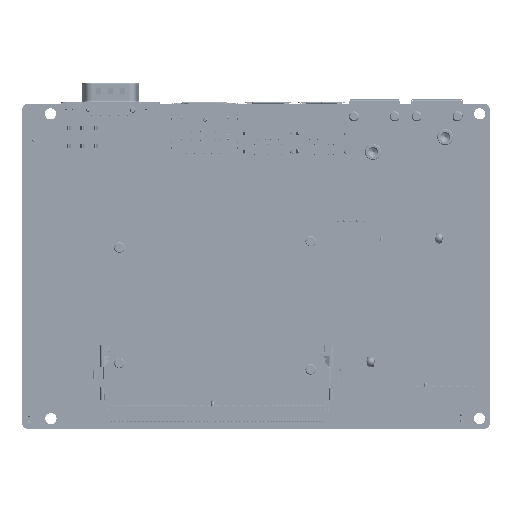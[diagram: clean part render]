
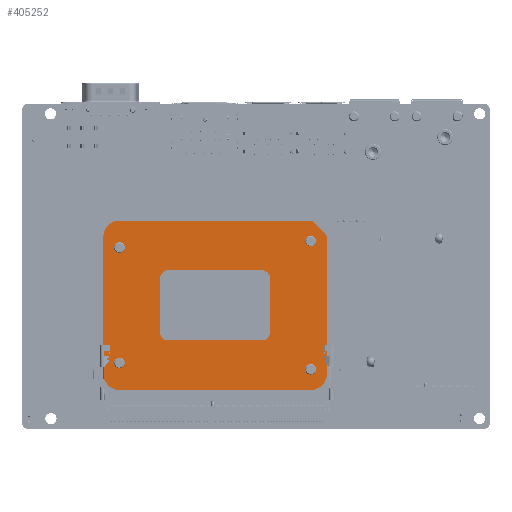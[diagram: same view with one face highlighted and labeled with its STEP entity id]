
A CAD part, front view. The second image highlights one B-rep face of the part: STEP entity #405252.
In plain terms, the highlighted planar face has unit normal (0, -1, 0).
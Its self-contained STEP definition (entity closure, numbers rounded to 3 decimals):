
#404733=CARTESIAN_POINT('',(-32.65,-3.948,-21.039));
#404734=DIRECTION('',(0.,1.,0.));
#404735=DIRECTION('',(-0.707,0.,-0.707));
#404736=AXIS2_PLACEMENT_3D('',#404733,#404734,#404735);
#404738=CARTESIAN_POINT('',(-29.85,-3.948,21.45));
#404739=DIRECTION('',(0.,1.,0.));
#404740=DIRECTION('',(-1.,0.,0.));
#404741=AXIS2_PLACEMENT_3D('',#404738,#404739,#404740);
#404743=CARTESIAN_POINT('',(29.85,-3.948,21.45));
#404744=DIRECTION('',(0.,1.,0.));
#404745=DIRECTION('',(0.,0.,1.));
#404746=AXIS2_PLACEMENT_3D('',#404743,#404744,#404745);
#404748=CARTESIAN_POINT('',(29.85,-3.948,-21.45));
#404749=DIRECTION('',(0.,1.,0.));
#404750=DIRECTION('',(1.,0.,0.));
#404751=AXIS2_PLACEMENT_3D('',#404748,#404749,#404750);
#404753=CARTESIAN_POINT('',(-29.439,-3.948,-24.25));
#404754=DIRECTION('',(0.,1.,0.));
#404755=DIRECTION('',(0.,0.,-1.));
#404756=AXIS2_PLACEMENT_3D('',#404753,#404754,#404755);
#404758=DIRECTION('',(-0.707,0.,0.707));
#404759=VECTOR('',#404758,4.541);
#404760=CARTESIAN_POINT('',(-30.994,-3.948,-25.806));
#404761=LINE('',#404760,#404759);
#404762=CARTESIAN_POINT('',(29.85,-3.948,18.));
#404763=DIRECTION('',(0.,-1.,0.));
#404764=DIRECTION('',(-1.,0.,0.));
#404765=AXIS2_PLACEMENT_3D('',#404762,#404763,#404764);
#404767=CARTESIAN_POINT('',(29.85,-3.948,18.));
#404768=DIRECTION('',(0.,-1.,0.));
#404769=DIRECTION('',(1.,0.,0.));
#404770=AXIS2_PLACEMENT_3D('',#404767,#404768,#404769);
#404772=CARTESIAN_POINT('',(29.85,-3.948,-18.));
#404773=DIRECTION('',(0.,-1.,0.));
#404774=DIRECTION('',(-1.,0.,0.));
#404775=AXIS2_PLACEMENT_3D('',#404772,#404773,#404774);
#404777=CARTESIAN_POINT('',(29.85,-3.948,-18.));
#404778=DIRECTION('',(0.,-1.,0.));
#404779=DIRECTION('',(1.,0.,0.));
#404780=AXIS2_PLACEMENT_3D('',#404777,#404778,#404779);
#404782=CARTESIAN_POINT('',(-29.85,-3.948,-20.));
#404783=DIRECTION('',(0.,-1.,0.));
#404784=DIRECTION('',(-1.,0.,0.));
#404785=AXIS2_PLACEMENT_3D('',#404782,#404783,#404784);
#404787=CARTESIAN_POINT('',(-29.85,-3.948,-20.));
#404788=DIRECTION('',(0.,-1.,0.));
#404789=DIRECTION('',(1.,0.,0.));
#404790=AXIS2_PLACEMENT_3D('',#404787,#404788,#404789);
#404792=CARTESIAN_POINT('',(14.65,-3.948,-8.45));
#404793=DIRECTION('',(0.,-1.,0.));
#404794=DIRECTION('',(0.,0.,-1.));
#404795=AXIS2_PLACEMENT_3D('',#404792,#404793,#404794);
#404797=CARTESIAN_POINT('',(14.65,-3.948,8.45));
#404798=DIRECTION('',(0.,-1.,0.));
#404799=DIRECTION('',(1.,0.,0.));
#404800=AXIS2_PLACEMENT_3D('',#404797,#404798,#404799);
#404802=CARTESIAN_POINT('',(-14.65,-3.948,8.45));
#404803=DIRECTION('',(0.,-1.,0.));
#404804=DIRECTION('',(0.,0.,1.));
#404805=AXIS2_PLACEMENT_3D('',#404802,#404803,#404804);
#404807=CARTESIAN_POINT('',(-14.65,-3.948,-8.45));
#404808=DIRECTION('',(0.,-1.,0.));
#404809=DIRECTION('',(-1.,0.,0.));
#404810=AXIS2_PLACEMENT_3D('',#404807,#404808,#404809);
#404812=CARTESIAN_POINT('',(-29.85,-3.948,20.));
#404813=DIRECTION('',(0.,-1.,0.));
#404814=DIRECTION('',(-1.,0.,0.));
#404815=AXIS2_PLACEMENT_3D('',#404812,#404813,#404814);
#404817=CARTESIAN_POINT('',(-29.85,-3.948,20.));
#404818=DIRECTION('',(0.,-1.,0.));
#404819=DIRECTION('',(1.,0.,0.));
#404820=AXIS2_PLACEMENT_3D('',#404817,#404818,#404819);
#404838=DIRECTION('',(1.,0.,0.));
#404839=VECTOR('',#404838,59.289);
#404840=CARTESIAN_POINT('',(-29.439,-3.948,-26.45));
#404841=LINE('',#404840,#404839);
#404850=DIRECTION('',(0.,0.,1.));
#404851=VECTOR('',#404850,42.9);
#404852=CARTESIAN_POINT('',(34.85,-3.948,-21.45));
#404853=LINE('',#404852,#404851);
#404862=DIRECTION('',(-1.,0.,0.));
#404863=VECTOR('',#404862,59.7);
#404864=CARTESIAN_POINT('',(29.85,-3.948,26.45));
#404865=LINE('',#404864,#404863);
#404874=DIRECTION('',(0.,0.,-1.));
#404875=VECTOR('',#404874,42.489);
#404876=CARTESIAN_POINT('',(-34.85,-3.948,21.45));
#404877=LINE('',#404876,#404875);
#405023=DIRECTION('',(0.,0.,-1.));
#405024=VECTOR('',#405023,16.9);
#405025=CARTESIAN_POINT('',(17.15,-3.948,8.45));
#405026=LINE('',#405025,#405024);
#405035=DIRECTION('',(1.,0.,0.));
#405036=VECTOR('',#405035,29.3);
#405037=CARTESIAN_POINT('',(-14.65,-3.948,10.95));
#405038=LINE('',#405037,#405036);
#405047=DIRECTION('',(0.,0.,1.));
#405048=VECTOR('',#405047,16.9);
#405049=CARTESIAN_POINT('',(-17.15,-3.948,-8.45));
#405050=LINE('',#405049,#405048);
#405059=DIRECTION('',(-1.,0.,0.));
#405060=VECTOR('',#405059,29.3);
#405061=CARTESIAN_POINT('',(14.65,-3.948,-10.95));
#405062=LINE('',#405061,#405060);
#405079=CARTESIAN_POINT('',(-34.206,-3.948,-22.594));
#405080=CARTESIAN_POINT('',(-34.85,-3.948,-21.039));
#405081=VERTEX_POINT('',#405079);
#405082=VERTEX_POINT('',#405080);
#405083=CARTESIAN_POINT('',(-34.85,-3.948,21.45));
#405084=VERTEX_POINT('',#405083);
#405085=CARTESIAN_POINT('',(-29.85,-3.948,26.45));
#405086=VERTEX_POINT('',#405085);
#405087=CARTESIAN_POINT('',(29.85,-3.948,26.45));
#405088=VERTEX_POINT('',#405087);
#405089=CARTESIAN_POINT('',(34.85,-3.948,21.45));
#405090=VERTEX_POINT('',#405089);
#405091=CARTESIAN_POINT('',(34.85,-3.948,-21.45));
#405092=VERTEX_POINT('',#405091);
#405093=CARTESIAN_POINT('',(29.85,-3.948,-26.45));
#405094=VERTEX_POINT('',#405093);
#405095=CARTESIAN_POINT('',(-29.439,-3.948,-26.45));
#405096=VERTEX_POINT('',#405095);
#405097=CARTESIAN_POINT('',(-30.994,-3.948,-25.806));
#405098=VERTEX_POINT('',#405097);
#405099=CARTESIAN_POINT('',(28.5,-3.948,18.));
#405100=CARTESIAN_POINT('',(31.2,-3.948,18.));
#405101=VERTEX_POINT('',#405099);
#405102=VERTEX_POINT('',#405100);
#405103=CARTESIAN_POINT('',(28.5,-3.948,-18.));
#405104=CARTESIAN_POINT('',(31.2,-3.948,-18.));
#405105=VERTEX_POINT('',#405103);
#405106=VERTEX_POINT('',#405104);
#405107=CARTESIAN_POINT('',(-31.2,-3.948,-20.));
#405108=CARTESIAN_POINT('',(-28.5,-3.948,-20.));
#405109=VERTEX_POINT('',#405107);
#405110=VERTEX_POINT('',#405108);
#405111=CARTESIAN_POINT('',(14.65,-3.948,-10.95));
#405112=CARTESIAN_POINT('',(-14.65,-3.948,-10.95));
#405113=VERTEX_POINT('',#405111);
#405114=VERTEX_POINT('',#405112);
#405115=CARTESIAN_POINT('',(17.15,-3.948,-8.45));
#405116=VERTEX_POINT('',#405115);
#405117=CARTESIAN_POINT('',(17.15,-3.948,8.45));
#405118=VERTEX_POINT('',#405117);
#405119=CARTESIAN_POINT('',(14.65,-3.948,10.95));
#405120=VERTEX_POINT('',#405119);
#405121=CARTESIAN_POINT('',(-14.65,-3.948,10.95));
#405122=VERTEX_POINT('',#405121);
#405123=CARTESIAN_POINT('',(-17.15,-3.948,8.45));
#405124=VERTEX_POINT('',#405123);
#405125=CARTESIAN_POINT('',(-17.15,-3.948,-8.45));
#405126=VERTEX_POINT('',#405125);
#405127=CARTESIAN_POINT('',(-31.2,-3.948,20.));
#405128=CARTESIAN_POINT('',(-28.5,-3.948,20.));
#405129=VERTEX_POINT('',#405127);
#405130=VERTEX_POINT('',#405128);
#405183=CARTESIAN_POINT('',(0.,-3.948,0.));
#405184=DIRECTION('',(0.,-1.,0.));
#405185=DIRECTION('',(1.,0.,0.));
#405186=AXIS2_PLACEMENT_3D('',#405183,#405184,#405185);
#405187=PLANE('',#405186);
#405189=ORIENTED_EDGE('',*,*,#405188,.T.);
#405191=ORIENTED_EDGE('',*,*,#405190,.F.);
#405193=ORIENTED_EDGE('',*,*,#405192,.T.);
#405195=ORIENTED_EDGE('',*,*,#405194,.F.);
#405197=ORIENTED_EDGE('',*,*,#405196,.T.);
#405199=ORIENTED_EDGE('',*,*,#405198,.F.);
#405201=ORIENTED_EDGE('',*,*,#405200,.T.);
#405203=ORIENTED_EDGE('',*,*,#405202,.F.);
#405205=ORIENTED_EDGE('',*,*,#405204,.T.);
#405207=ORIENTED_EDGE('',*,*,#405206,.T.);
#405208=EDGE_LOOP('',(#405189,#405191,#405193,#405195,#405197,#405199,#405201,
#405203,#405205,#405207));
#405209=FACE_OUTER_BOUND('',#405208,.F.);
#405211=ORIENTED_EDGE('',*,*,#405210,.T.);
#405213=ORIENTED_EDGE('',*,*,#405212,.T.);
#405214=EDGE_LOOP('',(#405211,#405213));
#405215=FACE_BOUND('',#405214,.F.);
#405217=ORIENTED_EDGE('',*,*,#405216,.T.);
#405219=ORIENTED_EDGE('',*,*,#405218,.T.);
#405220=EDGE_LOOP('',(#405217,#405219));
#405221=FACE_BOUND('',#405220,.F.);
#405223=ORIENTED_EDGE('',*,*,#405222,.T.);
#405225=ORIENTED_EDGE('',*,*,#405224,.T.);
#405226=EDGE_LOOP('',(#405223,#405225));
#405227=FACE_BOUND('',#405226,.F.);
#405229=ORIENTED_EDGE('',*,*,#405228,.F.);
#405231=ORIENTED_EDGE('',*,*,#405230,.T.);
#405233=ORIENTED_EDGE('',*,*,#405232,.F.);
#405235=ORIENTED_EDGE('',*,*,#405234,.T.);
#405237=ORIENTED_EDGE('',*,*,#405236,.F.);
#405239=ORIENTED_EDGE('',*,*,#405238,.T.);
#405241=ORIENTED_EDGE('',*,*,#405240,.F.);
#405243=ORIENTED_EDGE('',*,*,#405242,.T.);
#405244=EDGE_LOOP('',(#405229,#405231,#405233,#405235,#405237,#405239,#405241,
#405243));
#405245=FACE_BOUND('',#405244,.F.);
#405247=ORIENTED_EDGE('',*,*,#405246,.T.);
#405249=ORIENTED_EDGE('',*,*,#405248,.T.);
#405250=EDGE_LOOP('',(#405247,#405249));
#405251=FACE_BOUND('',#405250,.F.);
#405252=ADVANCED_FACE('',(#405209,#405215,#405221,#405227,#405245,#405251),
#405187,.T.);
#404737=CIRCLE('',#404736,2.2);
#404742=CIRCLE('',#404741,5.);
#404747=CIRCLE('',#404746,5.);
#404752=CIRCLE('',#404751,5.);
#404757=CIRCLE('',#404756,2.2);
#404766=CIRCLE('',#404765,1.35);
#404771=CIRCLE('',#404770,1.35);
#404776=CIRCLE('',#404775,1.35);
#404781=CIRCLE('',#404780,1.35);
#404786=CIRCLE('',#404785,1.35);
#404791=CIRCLE('',#404790,1.35);
#404796=CIRCLE('',#404795,2.5);
#404801=CIRCLE('',#404800,2.5);
#404806=CIRCLE('',#404805,2.5);
#404811=CIRCLE('',#404810,2.5);
#404816=CIRCLE('',#404815,1.35);
#404821=CIRCLE('',#404820,1.35);
#405188=EDGE_CURVE('',#405081,#405082,#404737,.T.);
#405190=EDGE_CURVE('',#405084,#405082,#404877,.T.);
#405192=EDGE_CURVE('',#405084,#405086,#404742,.T.);
#405194=EDGE_CURVE('',#405088,#405086,#404865,.T.);
#405196=EDGE_CURVE('',#405088,#405090,#404747,.T.);
#405198=EDGE_CURVE('',#405092,#405090,#404853,.T.);
#405200=EDGE_CURVE('',#405092,#405094,#404752,.T.);
#405202=EDGE_CURVE('',#405096,#405094,#404841,.T.);
#405204=EDGE_CURVE('',#405096,#405098,#404757,.T.);
#405206=EDGE_CURVE('',#405098,#405081,#404761,.T.);
#405210=EDGE_CURVE('',#405101,#405102,#404766,.T.);
#405212=EDGE_CURVE('',#405102,#405101,#404771,.T.);
#405216=EDGE_CURVE('',#405105,#405106,#404776,.T.);
#405218=EDGE_CURVE('',#405106,#405105,#404781,.T.);
#405222=EDGE_CURVE('',#405109,#405110,#404786,.T.);
#405224=EDGE_CURVE('',#405110,#405109,#404791,.T.);
#405228=EDGE_CURVE('',#405113,#405114,#405062,.T.);
#405230=EDGE_CURVE('',#405113,#405116,#404796,.T.);
#405232=EDGE_CURVE('',#405118,#405116,#405026,.T.);
#405234=EDGE_CURVE('',#405118,#405120,#404801,.T.);
#405236=EDGE_CURVE('',#405122,#405120,#405038,.T.);
#405238=EDGE_CURVE('',#405122,#405124,#404806,.T.);
#405240=EDGE_CURVE('',#405126,#405124,#405050,.T.);
#405242=EDGE_CURVE('',#405126,#405114,#404811,.T.);
#405246=EDGE_CURVE('',#405129,#405130,#404816,.T.);
#405248=EDGE_CURVE('',#405130,#405129,#404821,.T.);
